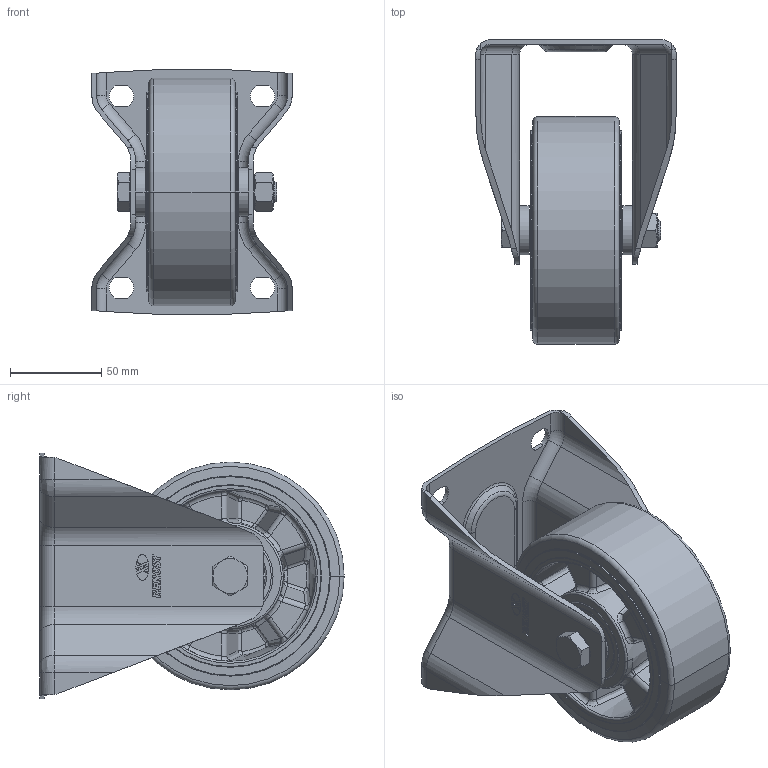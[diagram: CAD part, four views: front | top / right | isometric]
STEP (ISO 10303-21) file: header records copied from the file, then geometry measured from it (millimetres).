
FILE_DESCRIPTION((''),'2;1');
FILE_NAME('633_ALE-G125_S_3D_ASM','2021-08-27T',('Konstrukcia-Modely'),(''),'CREO PARAMETRIC BY PTC INC, 2018360','CREO PARAMETRIC BY PTC INC, 2018360','');
FILE_SCHEMA(('CONFIG_CONTROL_DESIGN'));
Length unit declared in the file: millimetre
Products named in the file (4): 633_125_3D; VY-KR_20X5-25_3D; ALE_G125-50-20-50_S_3D; 633_ALE-G125_S_3D_ASM
Assembly tree (4 placements, depth 2):
  633_ALE-G125_S_3D_ASM
    633_125_3D
    VY-KR_20X5-25_3D  x2
    ALE_G125-50-20-50_S_3D
Bounding box: 110 x 167 x 134.59 mm (x, y, z)
Volume: 556226.3 mm3; surface area: 147195.1 mm2
Topology: 4 solids, 4 shells, 978 faces, 2483 edges, 1540 vertices
Faces by surface type: plane 346, cylinder 270, bspline 200, torus 104, cone 46, extrusion 12
Entity records: 39667 total; most frequent: CARTESIAN_POINT 17127, ORIENTED_EDGE 4900, DIRECTION 4422, EDGE_CURVE 2450, AXIS2_PLACEMENT_3D 1632, VERTEX_POINT 1532, VECTOR 1158, LINE 1146
